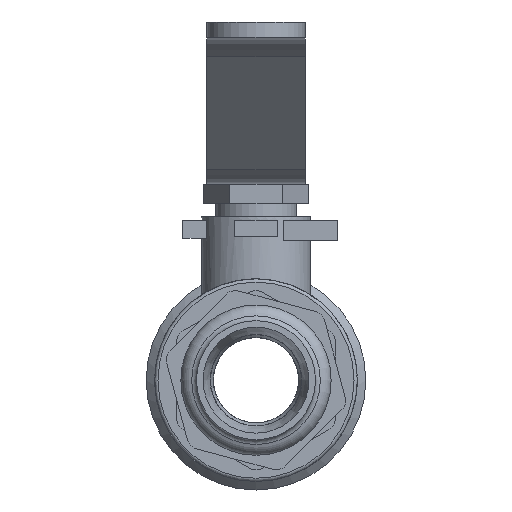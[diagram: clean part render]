
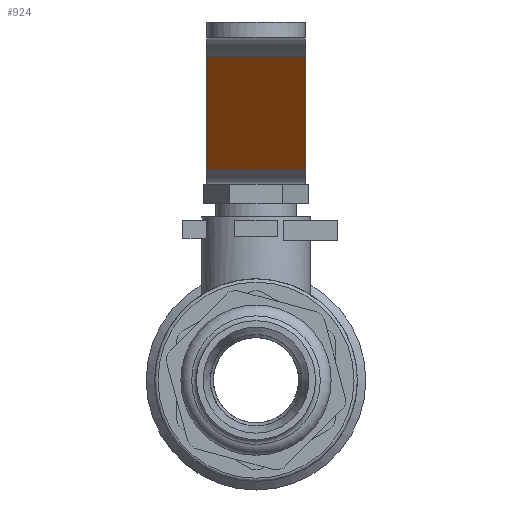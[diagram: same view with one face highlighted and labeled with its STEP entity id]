
A CAD part, left-side view. The second image highlights one B-rep face of the part: STEP entity #924.
In plain terms, the highlighted planar face has unit normal (-0.718, 0, -0.696).
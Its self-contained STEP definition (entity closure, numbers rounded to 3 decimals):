
#159=FACE_OUTER_BOUND('',#1366,.T.);
#390=LINE('',#4978,#624);
#391=LINE('',#4981,#625);
#392=LINE('',#4983,#626);
#393=LINE('',#4985,#627);
#624=VECTOR('',#3919,1.);
#625=VECTOR('',#3920,1.);
#626=VECTOR('',#3921,1.);
#627=VECTOR('',#3922,1.);
#813=PLANE('',#3410);
#924=ADVANCED_FACE('',(#159),#813,.T.);
#1366=EDGE_LOOP('',(#1767,#1768,#1769,#1770));
#1767=ORIENTED_EDGE('',*,*,#2868,.T.);
#1768=ORIENTED_EDGE('',*,*,#2869,.T.);
#1769=ORIENTED_EDGE('',*,*,#2870,.F.);
#1770=ORIENTED_EDGE('',*,*,#2871,.T.);
#2551=VERTEX_POINT('',#4979);
#2552=VERTEX_POINT('',#4980);
#2553=VERTEX_POINT('',#4982);
#2554=VERTEX_POINT('',#4984);
#2868=EDGE_CURVE('',#2551,#2552,#390,.T.);
#2869=EDGE_CURVE('',#2552,#2553,#391,.T.);
#2870=EDGE_CURVE('',#2554,#2553,#392,.T.);
#2871=EDGE_CURVE('',#2554,#2551,#393,.T.);
#3410=AXIS2_PLACEMENT_3D('',#4986,#3923,#3924);
#3919=DIRECTION('',(0.696,0.,-0.718));
#3920=DIRECTION('',(0.,-1.,0.));
#3921=DIRECTION('',(0.696,0.,-0.718));
#3922=DIRECTION('',(0.,1.,0.));
#3923=DIRECTION('',(-0.718,0.,-0.696));
#3924=DIRECTION('',(-0.696,0.,0.718));
#4978=CARTESIAN_POINT('',(-31.321,7.5,52.5));
#4979=CARTESIAN_POINT('',(-28.374,7.5,49.458));
#4980=CARTESIAN_POINT('',(-11.673,7.5,32.22));
#4981=CARTESIAN_POINT('',(-11.673,7.5,32.22));
#4982=CARTESIAN_POINT('',(-11.673,-7.5,32.22));
#4983=CARTESIAN_POINT('',(-10.574,-7.5,31.087));
#4984=CARTESIAN_POINT('',(-28.374,-7.5,49.458));
#4985=CARTESIAN_POINT('',(-28.374,7.5,49.458));
#4986=CARTESIAN_POINT('',(-10.574,7.5,31.087));
